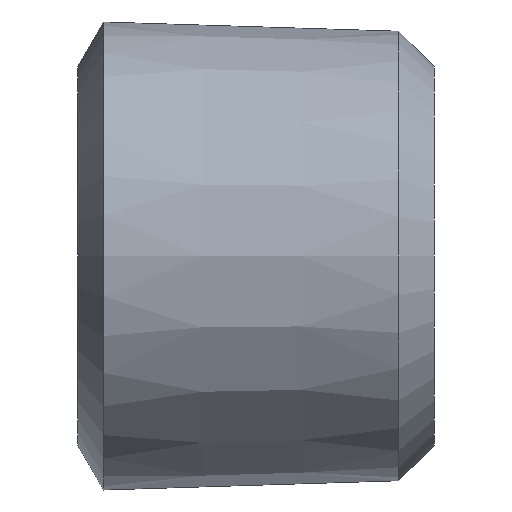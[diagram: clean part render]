
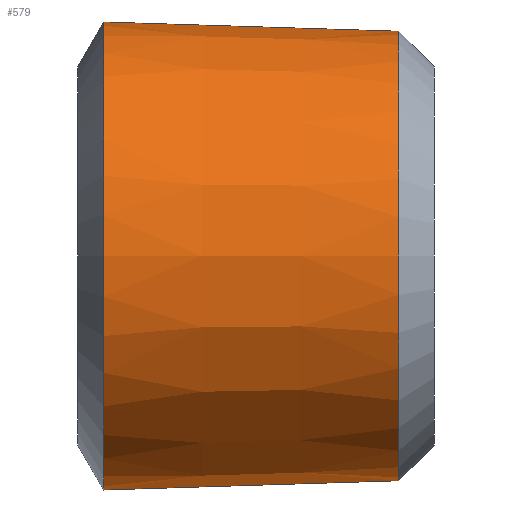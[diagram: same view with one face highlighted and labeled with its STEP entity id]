
A CAD part, left-side view. The second image highlights one B-rep face of the part: STEP entity #579.
In plain terms, the highlighted conical face has half-angle 1.788 degrees and reference radius 5.202 mm.
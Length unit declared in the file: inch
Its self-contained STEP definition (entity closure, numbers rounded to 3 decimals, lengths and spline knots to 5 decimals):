
#5 = CARTESIAN_POINT ( 'NONE',  ( 0., -0.02254, -0.2048 ) ) ;
#17 = FACE_OUTER_BOUND ( 'NONE', #786, .T. ) ;
#36 = CARTESIAN_POINT ( 'NONE',  ( 0., -0.02254, 0.2048 ) ) ;
#41 = EDGE_CURVE ( 'NONE', #706, #580, #576, .T. ) ;
#90 = DIRECTION ( 'NONE',  ( 0., 0., 1. ) ) ;
#105 = EDGE_CURVE ( 'NONE', #706, #677, #268, .T. ) ;
#135 = AXIS2_PLACEMENT_3D ( 'NONE', #231, #352, #654 ) ;
#147 = ORIENTED_EDGE ( 'NONE', *, *, #105, .T. ) ;
#216 = CARTESIAN_POINT ( 'NONE',  ( 0., -0.02254, 0. ) ) ;
#231 = CARTESIAN_POINT ( 'NONE',  ( 0., -0.28103, 0. ) ) ;
#259 = ORIENTED_EDGE ( 'NONE', *, *, #41, .F. ) ;
#263 = EDGE_CURVE ( 'NONE', #677, #731, #699, .T. ) ;
#267 = DIRECTION ( 'NONE',  ( 0., 1., 0. ) ) ;
#268 = CIRCLE ( 'NONE', #135, 0.19673 ) ;
#276 = CARTESIAN_POINT ( 'NONE',  ( 0., -0.02254, -0.2048 ) ) ;
#289 = CARTESIAN_POINT ( 'NONE',  ( 0., -0.28103, 0.19673 ) ) ;
#352 = DIRECTION ( 'NONE',  ( 0., 1., 0. ) ) ;
#364 = ORIENTED_EDGE ( 'NONE', *, *, #493, .F. ) ;
#395 = DIRECTION ( 'NONE',  ( 0., 1., 0. ) ) ;
#397 = CARTESIAN_POINT ( 'NONE',  ( 0., -0.02254, 0. ) ) ;
#399 = CARTESIAN_POINT ( 'NONE',  ( 0., -0.02254, 0.2048 ) ) ;
#470 = DIRECTION ( 'NONE',  ( 0., 0., 1. ) ) ;
#493 = EDGE_CURVE ( 'NONE', #580, #731, #625, .T. ) ;
#499 = VECTOR ( 'NONE', #540, 39.37008 ) ;
#513 = VECTOR ( 'NONE', #644, 39.37008 ) ;
#540 = DIRECTION ( 'NONE',  ( 0., 1., -0.031 ) ) ;
#545 = CONICAL_SURFACE ( 'NONE', #598, 0.2048, 0.031 ) ;
#576 = LINE ( 'NONE', #5, #499 ) ;
#579 = ADVANCED_FACE ( 'NONE', ( #17 ), #545, .T. ) ;
#580 = VERTEX_POINT ( 'NONE', #276 ) ;
#598 = AXIS2_PLACEMENT_3D ( 'NONE', #216, #395, #470 ) ;
#621 = ORIENTED_EDGE ( 'NONE', *, *, #263, .T. ) ;
#625 = CIRCLE ( 'NONE', #686, 0.2048 ) ;
#644 = DIRECTION ( 'NONE',  ( 0., 1., 0.031 ) ) ;
#654 = DIRECTION ( 'NONE',  ( 0., 0., 1. ) ) ;
#658 = CARTESIAN_POINT ( 'NONE',  ( 0., -0.28103, -0.19673 ) ) ;
#677 = VERTEX_POINT ( 'NONE', #289 ) ;
#686 = AXIS2_PLACEMENT_3D ( 'NONE', #397, #267, #90 ) ;
#699 = LINE ( 'NONE', #399, #513 ) ;
#706 = VERTEX_POINT ( 'NONE', #658 ) ;
#731 = VERTEX_POINT ( 'NONE', #36 ) ;
#786 = EDGE_LOOP ( 'NONE', ( #259, #147, #621, #364 ) ) ;
